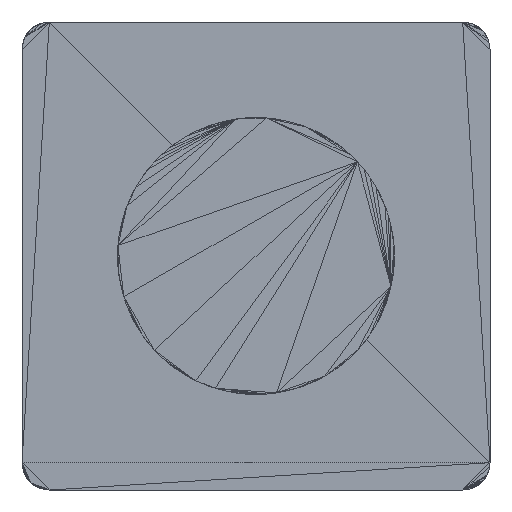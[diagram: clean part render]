
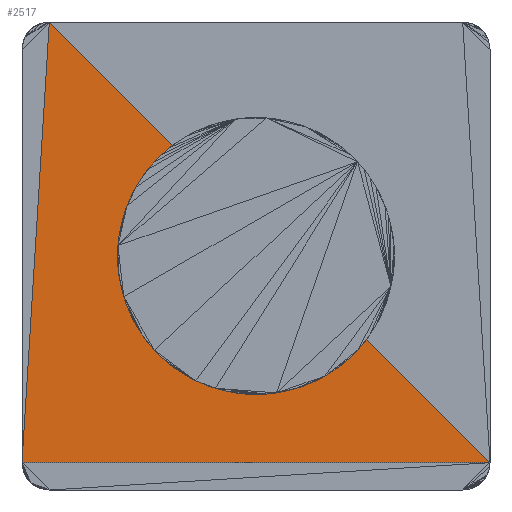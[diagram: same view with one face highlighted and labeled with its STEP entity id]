
A CAD part, front view. The second image highlights one B-rep face of the part: STEP entity #2517.
In plain terms, the highlighted planar face has unit normal (0, -1, 0) as drawn and (0, 0, 1) by its records, which use the part's own axes.
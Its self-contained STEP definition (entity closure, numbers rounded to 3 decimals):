
#241 = VERTEX_POINT('',#242);
#242 = CARTESIAN_POINT('',(-6.,-5.3,3.5));
#897 = PLANE('',#898);
#898 = AXIS2_PLACEMENT_3D('',#899,#900,#901);
#899 = CARTESIAN_POINT('',(-0.067,-5.477,3.5));
#900 = DIRECTION('',(0.,0.,1.));
#901 = DIRECTION('',(1.,0.,-0.));
#2381 = VERTEX_POINT('',#2382);
#2382 = CARTESIAN_POINT('',(-5.3,6.,3.5));
#2447 = PLANE('',#2448);
#2448 = AXIS2_PLACEMENT_3D('',#2449,#2450,#2451);
#2449 = CARTESIAN_POINT('',(-5.812,0.417,3.5));
#2450 = DIRECTION('',(0.,0.,1.));
#2451 = DIRECTION('',(1.,0.,-0.));
#2492 = EDGE_CURVE('',#241,#2381,#2493,.T.);
#2493 = SURFACE_CURVE('',#2494,(#2498,#2505),.PCURVE_S1.);
#2494 = LINE('',#2495,#2496);
#2495 = CARTESIAN_POINT('',(-6.,-5.3,3.5));
#2496 = VECTOR('',#2497,1.);
#2497 = DIRECTION('',(0.062,0.998,0.));
#2498 = PCURVE('',#2447,#2499);
#2499 = DEFINITIONAL_REPRESENTATION('',(#2500),#2504);
#2500 = LINE('',#2501,#2502);
#2501 = CARTESIAN_POINT('',(-0.188,-5.717));
#2502 = VECTOR('',#2503,1.);
#2503 = DIRECTION('',(0.062,0.998));
#2504 = ( GEOMETRIC_REPRESENTATION_CONTEXT(2) 
PARAMETRIC_REPRESENTATION_CONTEXT() REPRESENTATION_CONTEXT('2D SPACE',''
  ) );
#2505 = PCURVE('',#2506,#2511);
#2506 = PLANE('',#2507);
#2507 = AXIS2_PLACEMENT_3D('',#2508,#2509,#2510);
#2508 = CARTESIAN_POINT('',(-1.485,-1.375,3.5));
#2509 = DIRECTION('',(0.,0.,1.));
#2510 = DIRECTION('',(1.,0.,-0.));
#2511 = DEFINITIONAL_REPRESENTATION('',(#2512),#2516);
#2512 = LINE('',#2513,#2514);
#2513 = CARTESIAN_POINT('',(-4.515,-3.925));
#2514 = VECTOR('',#2515,1.);
#2515 = DIRECTION('',(0.062,0.998));
#2516 = ( GEOMETRIC_REPRESENTATION_CONTEXT(2) 
PARAMETRIC_REPRESENTATION_CONTEXT() REPRESENTATION_CONTEXT('2D SPACE',''
  ) );
#2517 = ADVANCED_FACE('',(#2518),#2506,.T.);
#2518 = FACE_BOUND('',#2519,.T.);
#2519 = EDGE_LOOP('',(#2520,#2521,#2544));
#2520 = ORIENTED_EDGE('',*,*,#2492,.F.);
#2521 = ORIENTED_EDGE('',*,*,#2522,.F.);
#2522 = EDGE_CURVE('',#2523,#241,#2525,.T.);
#2523 = VERTEX_POINT('',#2524);
#2524 = CARTESIAN_POINT('',(6.,-5.3,3.5));
#2525 = SURFACE_CURVE('',#2526,(#2530,#2537),.PCURVE_S1.);
#2526 = LINE('',#2527,#2528);
#2527 = CARTESIAN_POINT('',(6.,-5.3,3.5));
#2528 = VECTOR('',#2529,1.);
#2529 = DIRECTION('',(-1.,0.,0.));
#2530 = PCURVE('',#2506,#2531);
#2531 = DEFINITIONAL_REPRESENTATION('',(#2532),#2536);
#2532 = LINE('',#2533,#2534);
#2533 = CARTESIAN_POINT('',(7.485,-3.925));
#2534 = VECTOR('',#2535,1.);
#2535 = DIRECTION('',(-1.,0.));
#2536 = ( GEOMETRIC_REPRESENTATION_CONTEXT(2) 
PARAMETRIC_REPRESENTATION_CONTEXT() REPRESENTATION_CONTEXT('2D SPACE',''
  ) );
#2537 = PCURVE('',#897,#2538);
#2538 = DEFINITIONAL_REPRESENTATION('',(#2539),#2543);
#2539 = LINE('',#2540,#2541);
#2540 = CARTESIAN_POINT('',(6.067,0.177));
#2541 = VECTOR('',#2542,1.);
#2542 = DIRECTION('',(-1.,0.));
#2543 = ( GEOMETRIC_REPRESENTATION_CONTEXT(2) 
PARAMETRIC_REPRESENTATION_CONTEXT() REPRESENTATION_CONTEXT('2D SPACE',''
  ) );
#2544 = ORIENTED_EDGE('',*,*,#2545,.T.);
#2545 = EDGE_CURVE('',#2523,#2381,#2546,.T.);
#2546 = SURFACE_CURVE('',#2547,(#2551,#2558),.PCURVE_S1.);
#2547 = LINE('',#2548,#2549);
#2548 = CARTESIAN_POINT('',(6.,-5.3,3.5));
#2549 = VECTOR('',#2550,1.);
#2550 = DIRECTION('',(-0.707,0.707,0.));
#2551 = PCURVE('',#2506,#2552);
#2552 = DEFINITIONAL_REPRESENTATION('',(#2553),#2557);
#2553 = LINE('',#2554,#2555);
#2554 = CARTESIAN_POINT('',(7.485,-3.925));
#2555 = VECTOR('',#2556,1.);
#2556 = DIRECTION('',(-0.707,0.707));
#2557 = ( GEOMETRIC_REPRESENTATION_CONTEXT(2) 
PARAMETRIC_REPRESENTATION_CONTEXT() REPRESENTATION_CONTEXT('2D SPACE',''
  ) );
#2558 = PCURVE('',#2559,#2564);
#2559 = PLANE('',#2560);
#2560 = AXIS2_PLACEMENT_3D('',#2561,#2562,#2563);
#2561 = CARTESIAN_POINT('',(1.835,1.93,3.5));
#2562 = DIRECTION('',(0.,0.,1.));
#2563 = DIRECTION('',(1.,0.,-0.));
#2564 = DEFINITIONAL_REPRESENTATION('',(#2565),#2569);
#2565 = LINE('',#2566,#2567);
#2566 = CARTESIAN_POINT('',(4.165,-7.23));
#2567 = VECTOR('',#2568,1.);
#2568 = DIRECTION('',(-0.707,0.707));
#2569 = ( GEOMETRIC_REPRESENTATION_CONTEXT(2) 
PARAMETRIC_REPRESENTATION_CONTEXT() REPRESENTATION_CONTEXT('2D SPACE',''
  ) );
